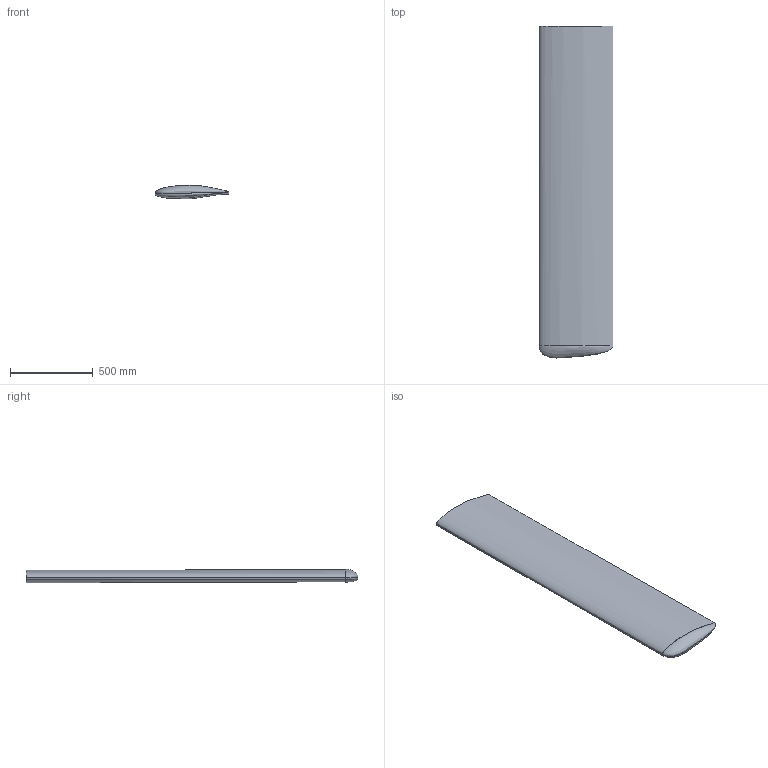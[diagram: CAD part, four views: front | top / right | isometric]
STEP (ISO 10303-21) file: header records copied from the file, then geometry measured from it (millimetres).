
FILE_DESCRIPTION (( 'STEP AP214' ), '1' );
FILE_NAME ('8524_wing-2.STEP', '2011-07-19T08:52:54', ( '' ), ( '' ), 'SwSTEP 2.0', 'SolidWorks 2009', '' );
FILE_SCHEMA (( 'AUTOMOTIVE_DESIGN' ));
Length unit declared in the file: millimetre
Products named in the file (1): 8524_wing-2
Bounding box: 447.02 x 2006.35 x 80.84 mm (x, y, z)
Surface area: 1852238.9 mm2 (no closed solid volume)
Topology: 0 solids, 3 shells, 4 faces, 14 edges, 8 vertices
Faces by surface type: bspline 4
Entity records: 2287 total; most frequent: CARTESIAN_POINT 2195, ORIENTED_EDGE 12, EDGE_CURVE 10, B_SPLINE_CURVE_WITH_KNOTS 8, VERTEX_POINT 8, B_SPLINE_SURFACE_WITH_KNOTS 4, FACE_OUTER_BOUND 4, DIRECTION 4
